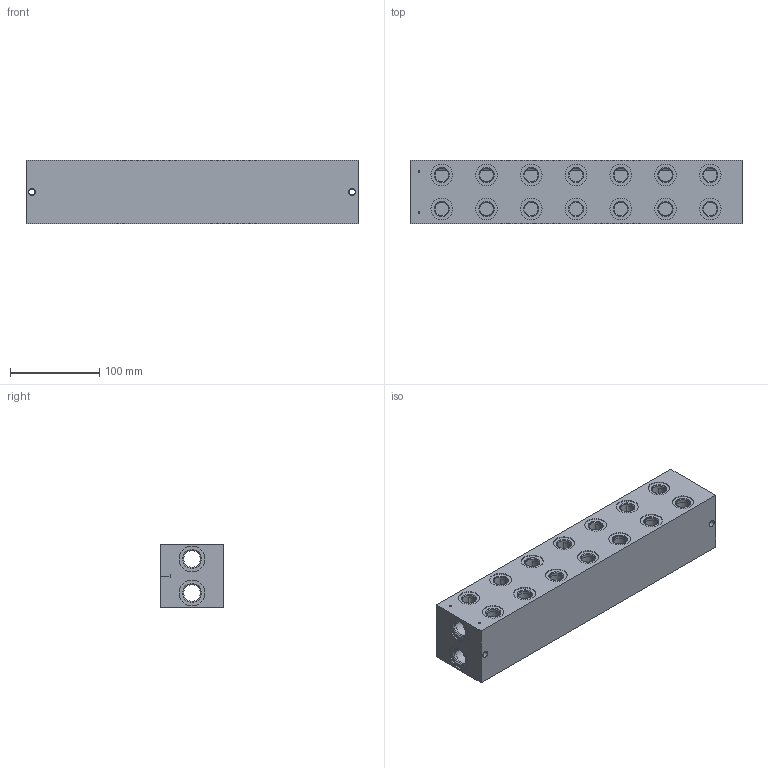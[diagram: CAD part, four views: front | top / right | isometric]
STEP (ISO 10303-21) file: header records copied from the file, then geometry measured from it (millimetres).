
FILE_DESCRIPTION((''),'2;1');
FILE_NAME('27563200','2015-11-27T',('Ahcz.brigadnik05'),(''),'PRO/ENGINEER BY PARAMETRIC TECHNOLOGY CORPORATION, 2015110','PRO/ENGINEER BY PARAMETRIC TECHNOLOGY CORPORATION, 2015110','');
FILE_SCHEMA(('AUTOMOTIVE_DESIGN { 1 0 10303 214 1 1 1 1 }'));
Length unit declared in the file: millimetre
Products named in the file (1): 27563200
Bounding box: 371 x 71 x 71 mm (x, y, z)
Volume: 610755 mm3; surface area: 234427.8 mm2
Topology: 1 solids, 53 shells, 445 faces, 1755 edges, 1752 vertices
Faces by surface type: cylinder 310, plane 86, cone 49
Entity records: 25792 total; most frequent: CARTESIAN_POINT 5367, DIRECTION 3246, ORIENTED_EDGE 2224, PRESENTATION_STYLE_ASSIGNMENT 1859, STYLED_ITEM 1859, CURVE_STYLE 1800, EDGE_CURVE 1216, AXIS2_PLACEMENT_3D 1148
